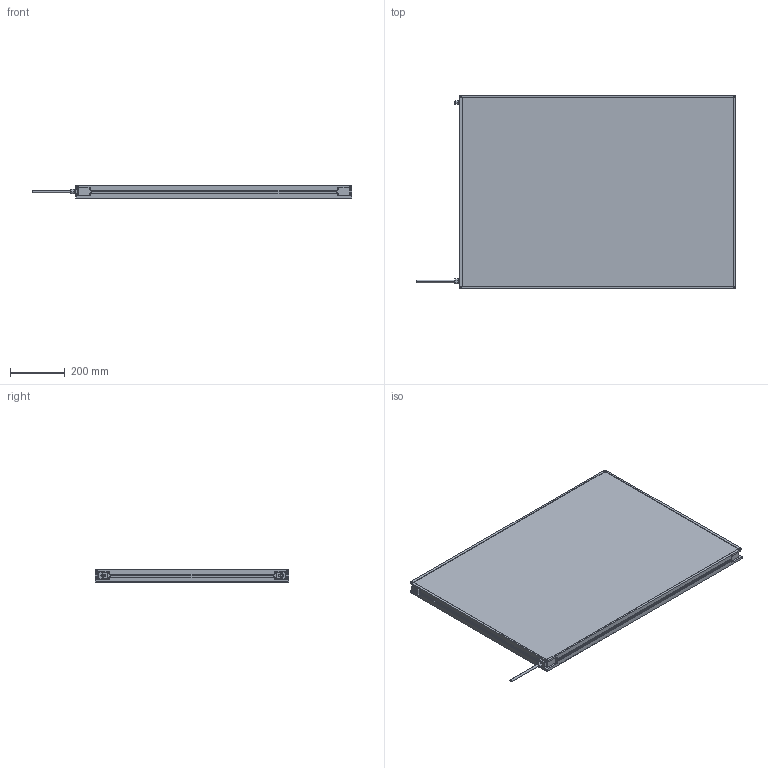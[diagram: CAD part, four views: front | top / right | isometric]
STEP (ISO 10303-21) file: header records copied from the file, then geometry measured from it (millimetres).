
FILE_DESCRIPTION (( 'STEP AP214' ), '1' );
FILE_NAME ('MBACK-xxxx-xxx-M1A2_CLIENT700x1000.STEP', '2022-04-01T11:48:28', ( '' ), ( '' ), 'SwSTEP 2.0', 'SolidWorks 2020', '' );
FILE_SCHEMA (( 'AUTOMOTIVE_DESIGN' ));
Length unit declared in the file: millimetre
Products named in the file (1): MBACK-xxxx-xxx-M1A2_CLIENT700x1000
Bounding box: 1167.4 x 708 x 45.5 mm (x, y, z)
Volume: 29741509 mm3; surface area: 1661223.2 mm2
Topology: 1 solids, 1 shells, 470 faces, 1210 edges, 804 vertices
Faces by surface type: plane 265, cylinder 117, bspline 80, cone 8
Entity records: 18046 total; most frequent: CARTESIAN_POINT 6837, ORIENTED_EDGE 2420, DIRECTION 2082, EDGE_CURVE 1210, VERTEX_POINT 804, LINE 800, VECTOR 800, AXIS2_PLACEMENT_3D 641
